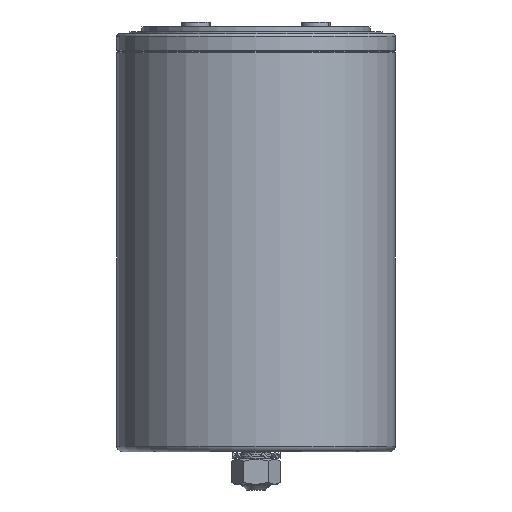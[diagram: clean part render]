
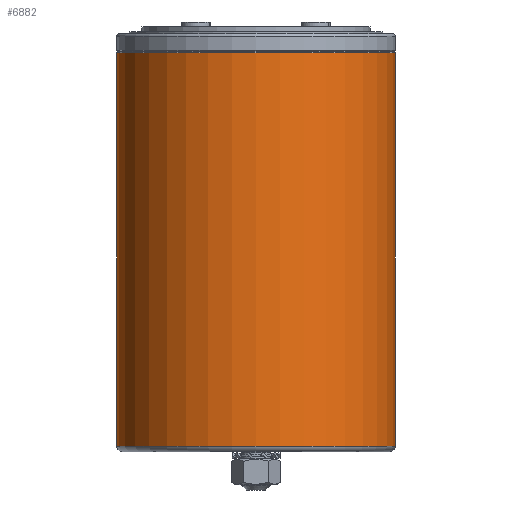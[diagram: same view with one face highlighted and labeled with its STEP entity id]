
A CAD part, front view. The second image highlights one B-rep face of the part: STEP entity #6882.
In plain terms, the highlighted cylindrical face has radius 58 mm (diameter 116 mm), a partial arc.
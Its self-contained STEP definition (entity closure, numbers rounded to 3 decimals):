
#804 = LINE ( 'NONE', #3098, #7986 ) ;
#939 = DIRECTION ( 'NONE',  ( -1., 0., 0. ) ) ;
#969 = VERTEX_POINT ( 'NONE', #3870 ) ;
#1052 = EDGE_LOOP ( 'NONE', ( #8433, #1362, #3599, #1640 ) ) ;
#1362 = ORIENTED_EDGE ( 'NONE', *, *, #1516, .T. ) ;
#1405 = DIRECTION ( 'NONE',  ( 0., 0., -1. ) ) ;
#1454 = CARTESIAN_POINT ( 'NONE',  ( 42.5, 0., 151.967 ) ) ;
#1458 = LINE ( 'NONE', #1454, #2801 ) ;
#1516 = EDGE_CURVE ( 'NONE', #4975, #2138, #5956, .T. ) ;
#1640 = ORIENTED_EDGE ( 'NONE', *, *, #2767, .F. ) ;
#1809 = AXIS2_PLACEMENT_3D ( 'NONE', #8118, #4918, #2306 ) ;
#2138 = VERTEX_POINT ( 'NONE', #8050 ) ;
#2306 = DIRECTION ( 'NONE',  ( -1., 0., 0. ) ) ;
#2735 = CIRCLE ( 'NONE', #5690, 58. ) ;
#2767 = EDGE_CURVE ( 'NONE', #6307, #969, #2735, .T. ) ;
#2801 = VECTOR ( 'NONE', #1405, 1000. ) ;
#3098 = CARTESIAN_POINT ( 'NONE',  ( -73.5, 0., 151.967 ) ) ;
#3526 = AXIS2_PLACEMENT_3D ( 'NONE', #3798, #3830, #5738 ) ;
#3599 = ORIENTED_EDGE ( 'NONE', *, *, #8183, .T. ) ;
#3705 = DIRECTION ( 'NONE',  ( 0., 0., -1. ) ) ;
#3798 = CARTESIAN_POINT ( 'NONE',  ( -15.5, 0., 145.217 ) ) ;
#3830 = DIRECTION ( 'NONE',  ( 0., 0., -1. ) ) ;
#3870 = CARTESIAN_POINT ( 'NONE',  ( -73.5, 0., -18.854 ) ) ;
#3875 = CARTESIAN_POINT ( 'NONE',  ( 42.5, 0., 145.217 ) ) ;
#4918 = DIRECTION ( 'NONE',  ( 0., 0., -1. ) ) ;
#4975 = VERTEX_POINT ( 'NONE', #3875 ) ;
#5345 = EDGE_CURVE ( 'NONE', #4975, #6307, #1458, .T. ) ;
#5492 = CARTESIAN_POINT ( 'NONE',  ( -15.5, 0., -18.854 ) ) ;
#5690 = AXIS2_PLACEMENT_3D ( 'NONE', #5492, #8056, #939 ) ;
#5738 = DIRECTION ( 'NONE',  ( -1., 0., 0. ) ) ;
#5956 = CIRCLE ( 'NONE', #3526, 58. ) ;
#6307 = VERTEX_POINT ( 'NONE', #7909 ) ;
#6375 = FACE_OUTER_BOUND ( 'NONE', #1052, .T. ) ;
#6882 = ADVANCED_FACE ( 'NONE', ( #6375 ), #7296, .T. ) ;
#7296 = CYLINDRICAL_SURFACE ( 'NONE', #1809, 58. ) ;
#7909 = CARTESIAN_POINT ( 'NONE',  ( 42.5, 0., -18.854 ) ) ;
#7986 = VECTOR ( 'NONE', #3705, 1000. ) ;
#8050 = CARTESIAN_POINT ( 'NONE',  ( -73.5, 0., 145.217 ) ) ;
#8056 = DIRECTION ( 'NONE',  ( 0., 0., -1. ) ) ;
#8118 = CARTESIAN_POINT ( 'NONE',  ( -15.5, 0., 151.967 ) ) ;
#8183 = EDGE_CURVE ( 'NONE', #2138, #969, #804, .T. ) ;
#8433 = ORIENTED_EDGE ( 'NONE', *, *, #5345, .F. ) ;
